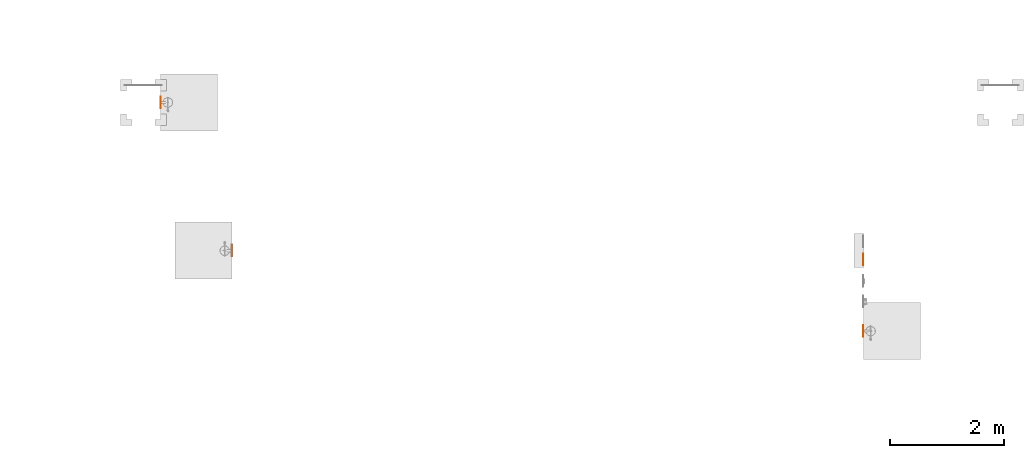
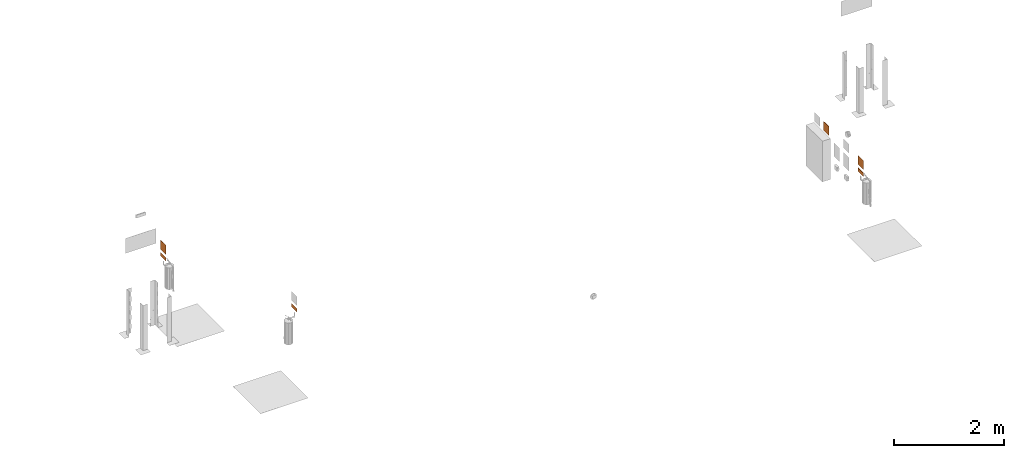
# One storey, part 70 of 119: 6 proxies.
"""IFC2X3 building model written with IfcOpenShell, lengths in metres."""

from ifc_helpers import new_model, entity, si_unit, converted_unit, derived_unit, direction, frame, frame_2d, origin, origin_2d_with_axis, place, context, subcontext, project, spatial, polyline, circle_curve, parameter, trimmed, segment, composite_curve, rectangle, outline, extrude, source, transform, mapped, material, material_list, type_object, type_shapes, element, save


model = new_model("IFC2X3")

# Units and contexts
model_context = context("Model", 3, precision=1e-05, world=origin(), true_north=direction((6.12303176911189e-17, 1.0)))
body_context = subcontext(model_context, "Body", "Model", "MODEL_VIEW")
ifc_project = project(units=[si_unit("LENGTHUNIT", "METRE"), si_unit("AREAUNIT", "SQUARE_METRE"), si_unit("VOLUMEUNIT", "CUBIC_METRE"), converted_unit("PLANEANGLEUNIT", "DEGREE", entity("IfcRatioMeasure", 0.0174532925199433), si_unit("PLANEANGLEUNIT", "RADIAN"), dimensions=[0, 0, 0, 0, 0, 0, 0]), si_unit("MASSUNIT", "GRAM", prefix="KILO"), derived_unit("MASSDENSITYUNIT", [(si_unit("MASSUNIT", "GRAM", prefix="KILO"), 1), (si_unit("LENGTHUNIT", "METRE"), -3)]), derived_unit("MOMENTOFINERTIAUNIT", [(si_unit("LENGTHUNIT", "METRE"), 4)]), si_unit("TIMEUNIT", "SECOND"), si_unit("FREQUENCYUNIT", "HERTZ"), si_unit("THERMODYNAMICTEMPERATUREUNIT", "DEGREE_CELSIUS"), derived_unit("THERMALTRANSMITTANCEUNIT", [(si_unit("MASSUNIT", "GRAM", prefix="KILO"), 1), (si_unit("THERMODYNAMICTEMPERATUREUNIT", "KELVIN"), -1), (si_unit("TIMEUNIT", "SECOND"), -3)]), derived_unit("VOLUMETRICFLOWRATEUNIT", [(si_unit("LENGTHUNIT", "METRE"), 3), (si_unit("TIMEUNIT", "SECOND"), -1)]), si_unit("ELECTRICCURRENTUNIT", "AMPERE"), si_unit("ELECTRICVOLTAGEUNIT", "VOLT"), si_unit("POWERUNIT", "WATT"), si_unit("FORCEUNIT", "NEWTON", prefix="KILO"), si_unit("ILLUMINANCEUNIT", "LUX"), si_unit("LUMINOUSFLUXUNIT", "LUMEN"), si_unit("LUMINOUSINTENSITYUNIT", "CANDELA"), derived_unit("USERDEFINED", [(si_unit("MASSUNIT", "GRAM", prefix="KILO"), -1), (si_unit("LENGTHUNIT", "METRE"), -2), (si_unit("TIMEUNIT", "SECOND"), 3), (si_unit("LUMINOUSFLUXUNIT", "LUMEN"), 1)]), derived_unit("LINEARVELOCITYUNIT", [(si_unit("LENGTHUNIT", "METRE"), 1), (si_unit("TIMEUNIT", "SECOND"), -1)]), si_unit("PRESSUREUNIT", "PASCAL"), derived_unit("USERDEFINED", [(si_unit("LENGTHUNIT", "METRE"), -2), (si_unit("MASSUNIT", "GRAM", prefix="KILO"), 1), (si_unit("TIMEUNIT", "SECOND"), -2)]), derived_unit("LINEARFORCEUNIT", [(si_unit("MASSUNIT", "GRAM", prefix="KILO"), 1), (si_unit("LENGTHUNIT", "METRE"), 1), (si_unit("TIMEUNIT", "SECOND"), -2), (si_unit("LENGTHUNIT", "METRE"), -1)]), derived_unit("PLANARFORCEUNIT", [(si_unit("MASSUNIT", "GRAM", prefix="KILO"), 1), (si_unit("LENGTHUNIT", "METRE"), 1), (si_unit("TIMEUNIT", "SECOND"), -2), (si_unit("LENGTHUNIT", "METRE"), -2)])], contexts=[model_context])

# Site, building, storey
site_placement = place(None, origin())
site = spatial("IfcSite", under=ifc_project, at=site_placement, Name="Default", CompositionType="ELEMENT")
building_placement = place(site_placement, origin())
building = spatial("IfcBuilding", under=site, at=building_placement, CompositionType="ELEMENT")
storey_placement = place(building_placement, origin())
storey = spatial("IfcBuildingStorey", under=building, at=storey_placement, Name="PAV. 01 - TÉRREO", CompositionType="ELEMENT", Elevation=0.0)

# Proxies
ifc_material_1 = material(Name="Plastico branco")
ifc_material_2 = material(Name="Plastico vermelho")
ifc_material_list_1 = material_list([ifc_material_1, ifc_material_2])
building_element_proxy_type_1 = type_object("IfcBuildingElementProxyType", Name="Sinalização de equipamentos - E05 - Extintor de incêndio:Distância 08m", PredefinedType="NOTDEFINED", material=ifc_material_1)
shared_shape_1 = source(origin(), body_context, "Body", "SweptSolid", [
    extrude(outline(composite_curve([segment(polyline([(-0.039533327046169, -0.0988107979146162), (0.0136590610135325, -0.0988107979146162)]), True, "CONTINUOUS"), segment(polyline([(0.0136590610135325, -0.0988107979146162), (0.0136590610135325, -0.0150548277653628)]), True, "CONTINUOUS"), segment(polyline([(0.0136590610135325, -0.0150548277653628), (0.0132403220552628, -0.0112272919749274)]), True, "CONTINUOUS"), segment(polyline([(0.0132403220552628, -0.0112272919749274), (0.0119841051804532, -0.00798860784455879)]), True, "CONTINUOUS"), segment(polyline([(0.0119841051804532, -0.00798860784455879), (0.00989041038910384, -0.00533877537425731)]), True, "CONTINUOUS"), segment(polyline([(0.00989041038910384, -0.00533877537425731), (0.00695923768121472, -0.00327779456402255)]), True, "CONTINUOUS"), segment(polyline([(0.00695923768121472, -0.00327779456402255), (0.00319058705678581, -0.00180566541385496)]), True, "CONTINUOUS"), segment(polyline([(0.00319058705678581, -0.00180566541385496), (-0.00141554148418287, -0.000922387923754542)]), True, "CONTINUOUS"), segment(polyline([(-0.00141554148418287, -0.000922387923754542), (-0.00685914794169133, -0.000627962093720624)]), True, "CONTINUOUS"), segment(polyline([(-0.00685914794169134, -0.000627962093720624), (-0.00685914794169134, 0.00837547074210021)]), True, "CONTINUOUS"), segment(polyline([(-0.00685914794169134, 0.00837547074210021), (0.000568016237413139, 0.00837547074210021)]), True, "CONTINUOUS"), segment(polyline([(0.000568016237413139, 0.00837547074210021), (0.021500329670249, -0.0075875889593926)]), True, "CONTINUOUS"), segment(polyline([(0.021500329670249, -0.0075875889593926), (0.021500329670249, -0.0104328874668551)]), True, "CONTINUOUS"), segment(polyline([(0.021500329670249, -0.0104328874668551), (0.0245059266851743, -0.0104328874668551)]), True, "CONTINUOUS"), segment(polyline([(0.0245059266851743, -0.0104328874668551), (0.0245059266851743, -0.00811335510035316)]), True, "CONTINUOUS"), segment(polyline([(0.0245059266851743, -0.00811335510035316), (0.0243642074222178, -0.00545038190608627)]), True, "CONTINUOUS"), segment(polyline([(0.0243642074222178, -0.00545038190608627), (0.0239570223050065, -0.0032112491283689)]), True, "CONTINUOUS"), segment(polyline([(0.0239570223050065, -0.0032112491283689), (0.0233113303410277, -0.00132119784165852)]), True, "CONTINUOUS"), segment(polyline([(0.0233113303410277, -0.00132119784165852), (0.0224540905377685, 0.00029453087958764)]), True, "CONTINUOUS"), segment(polyline([(0.0224540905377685, 0.00029453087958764), (0.0214122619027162, 0.00171069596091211)]), True, "CONTINUOUS"), segment(polyline([(0.0214122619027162, 0.00171069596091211), (0.0202128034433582, 0.00300205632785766)]), True, "CONTINUOUS"), segment(polyline([(0.0202128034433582, 0.00300205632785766), (0.0188826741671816, 0.00424337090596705)]), True, "CONTINUOUS"), segment(polyline([(0.0188826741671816, 0.00424337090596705), (0.0144021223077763, 0.00811180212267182)]), True, "CONTINUOUS"), segment(polyline([(0.0144021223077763, 0.00811180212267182), (0.0113518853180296, 0.0106145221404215)]), True, "CONTINUOUS"), segment(polyline([(0.0113518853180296, 0.0106145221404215), (0.0085825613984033, 0.0127576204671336)]), True, "CONTINUOUS"), segment(polyline([(0.0085825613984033, 0.0127576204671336), (0.00738733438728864, 0.0136170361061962)]), True, "CONTINUOUS"), segment(polyline([(0.00738733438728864, 0.0136170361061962), (0.00631521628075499, 0.0143235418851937)]), True, "CONTINUOUS"), segment(polyline([(0.00631521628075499, 0.0143235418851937), (0.00532850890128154, 0.0148903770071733)]), True, "CONTINUOUS"), segment(polyline([(0.00532850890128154, 0.0148903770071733), (0.00438926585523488, 0.0153309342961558)]), True, "CONTINUOUS"), segment(polyline([(0.00438926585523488, 0.0153309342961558), (0.00345954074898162, 0.0156586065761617)]), True, "CONTINUOUS"), segment(polyline([(0.00345954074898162, 0.0156586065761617), (0.00250138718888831, 0.0158867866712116)]), True, "CONTINUOUS"), segment(polyline([(0.00250138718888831, 0.0158867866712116), (0.00144087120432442, 0.0160289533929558)]), True, "CONTINUOUS"), segment(polyline([(0.00144087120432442, 0.0160289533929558), (-0.000108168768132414, 0.0160993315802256)]), True, "CONTINUOUS"), segment(polyline([(-0.000108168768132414, 0.0160993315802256), (-0.00685914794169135, 0.0160831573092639)]), True, "CONTINUOUS"), segment(polyline([(-0.00685914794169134, 0.0160831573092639), (-0.00685914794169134, 0.0213863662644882)]), True, "CONTINUOUS"), segment(polyline([(-0.00685914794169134, 0.0213863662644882), (-0.0177728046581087, 0.0213863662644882)]), True, "CONTINUOUS"), segment(polyline([(-0.0177728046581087, 0.0213863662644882), (-0.0177728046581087, 0.0160831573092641)]), True, "CONTINUOUS"), segment(polyline([(-0.0177728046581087, 0.0160831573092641), (-0.0288467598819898, 0.0160831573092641)]), True, "CONTINUOUS"), segment(trimmed(circle_curve(frame_2d((-0.0288467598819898, 0.0122293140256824), x_axis=(-1.0, 0.0)), 0.00385384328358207), [parameter(270.0)], [parameter(90.0000000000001)], True, "PARAMETER"), True, "CONTINUOUS"), segment(polyline([(-0.0288467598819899, 0.00837547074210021), (-0.0190151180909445, 0.00837547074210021)]), True, "CONTINUOUS"), segment(polyline([(-0.0190151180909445, 0.00837547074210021), (-0.0190151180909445, -0.000627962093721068)]), True, "CONTINUOUS"), segment(polyline([(-0.0190151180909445, -0.000627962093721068), (-0.024458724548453, -0.000922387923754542)]), True, "CONTINUOUS"), segment(polyline([(-0.024458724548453, -0.000922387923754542), (-0.0290648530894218, -0.00180566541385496)]), True, "CONTINUOUS"), segment(polyline([(-0.0290648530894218, -0.00180566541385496), (-0.0328335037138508, -0.00327779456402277)]), True, "CONTINUOUS"), segment(polyline([(-0.0328335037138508, -0.00327779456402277), (-0.03576467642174, -0.00533877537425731)]), True, "CONTINUOUS"), segment(polyline([(-0.03576467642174, -0.00533877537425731), (-0.0378583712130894, -0.00798860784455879)]), True, "CONTINUOUS"), segment(polyline([(-0.0378583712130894, -0.00798860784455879), (-0.0391145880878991, -0.0112272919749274)]), True, "CONTINUOUS"), segment(polyline([(-0.0391145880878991, -0.0112272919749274), (-0.039533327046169, -0.0150548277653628)]), True, "CONTINUOUS"), segment(polyline([(-0.039533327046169, -0.0150548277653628), (-0.039533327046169, -0.0988107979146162)]), True, "CONTINUOUS")], self_intersect=False)), frame((-0.0129371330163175, -0.0011, 1.94006139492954), z_axis=(0.0, 1.0, 0.0), x_axis=(-1.0, 0.0, 0.0)), (0.0, 0.0, 1.0), 0.0011),
    extrude(rectangle(XDim=0.001, YDim=0.179, at=origin_2d_with_axis()), frame((0.0, -0.0005, 1.8105), z_axis=(0.0, 0.0, 1.0), x_axis=(0.0, 1.0, 0.0)), (0.0, 0.0, 1.0), 0.179),
    extrude(outline(polyline([(-0.100000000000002, -0.1), (0.100000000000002, -0.1), (0.100000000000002, 0.1), (-0.100000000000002, 0.1), (-0.100000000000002, -0.1)]), holes=[polyline([(-0.0895000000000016, -0.0895000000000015), (-0.0895000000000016, 0.0894999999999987), (0.0894999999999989, 0.0894999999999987), (0.0894999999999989, -0.0895000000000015), (-0.0895000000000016, -0.0895000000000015)])]), frame((0.0, -0.001, 1.9), z_axis=(0.0, 1.0, 0.0), x_axis=(0.0, 0.0, -1.0)), (0.0, 0.0, 1.0), 0.001),
])
type_shapes(building_element_proxy_type_1, [shared_shape_1])
proxy_1_placement = place(storey_placement, frame((6.47387477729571, 31.9286447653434, 0.0), z_axis=(0.0, 0.0, 1.0), x_axis=(0.0, 1.0, 0.0)))
element("IfcBuildingElementProxy", 1, at=proxy_1_placement, inside=storey, type_object=building_element_proxy_type_1, material=ifc_material_list_1, Name="Sinalização de equipamentos - E05 - Extintor de incêndio:Distância 08m", ObjectType="Sinalização de equipamentos - E05 - Extintor de incêndio:Distância 08m", context=body_context, shape_type="MappedRepresentation", body=[
    mapped(shared_shape_1, transform((0.0, 0.0, 0.0), scale=1.0)),
])
ifc_material_list_2 = material_list([ifc_material_1, ifc_material_2])
proxy_2_placement = place(storey_placement, frame((18.7740605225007, 27.9275157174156, 0.0), z_axis=(0.0, 0.0, 1.0), x_axis=(0.0, 1.0, 0.0)))
element("IfcBuildingElementProxy", 2, at=proxy_2_placement, inside=storey, type_object=building_element_proxy_type_1, material=ifc_material_list_2, Name="Sinalização de equipamentos - E05 - Extintor de incêndio:Distância 08m", ObjectType="Sinalização de equipamentos - E05 - Extintor de incêndio:Distância 08m", context=body_context, shape_type="MappedRepresentation", body=[
    mapped(shared_shape_1, transform((0.0, 0.0, 0.0), scale=1.0)),
])
ifc_material_3 = material(Name="Plastico Preto")
ifc_material_4 = material(Name="Plastico azul claro")
ifc_material_5 = material(Name="Plastico Verde")
ifc_material_list_3 = material_list([ifc_material_3, ifc_material_4, ifc_material_2, ifc_material_1, ifc_material_5])
building_element_proxy_type_2 = type_object("IfcBuildingElementProxyType", Name="Sinalização de equipamentos - E05 - Extintor de incêndio - TIPO 2:Placa de extintor - E6-A", PredefinedType="NOTDEFINED", material=ifc_material_3)
shared_shape_2 = source(origin(), body_context, "Body", "SweptSolid", [
    extrude(rectangle(XDim=0.001, YDim=0.0243464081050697, at=origin_2d_with_axis()), frame((0.0791678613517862, -0.0005, 0.0143679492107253), z_axis=(0.0, 0.0, 1.0), x_axis=(0.0, 1.0, 0.0)), (0.0, 0.0, 1.0), 0.0243153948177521),
    extrude(rectangle(XDim=0.001, YDim=0.0243464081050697, at=origin_2d_with_axis()), frame((0.0514092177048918, -0.0005, 0.0143679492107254), z_axis=(0.0, 0.0, 1.0), x_axis=(0.0, 1.0, 0.0)), (0.0, 0.0, 1.0), 0.0243153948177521),
    extrude(rectangle(XDim=0.001, YDim=0.0243464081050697, at=origin_2d_with_axis()), frame((0.023605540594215, -0.0005, 0.0143679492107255), z_axis=(0.0, 0.0, 1.0), x_axis=(0.0, 1.0, 0.0)), (0.0, 0.0, 1.0), 0.0243153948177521),
    extrude(rectangle(XDim=0.001, YDim=0.0243464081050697, at=origin_2d_with_axis()), frame((-0.00415310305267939, -0.0005, 0.0143679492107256), z_axis=(0.0, 0.0, 1.0), x_axis=(0.0, 1.0, 0.0)), (0.0, 0.0, 1.0), 0.0243153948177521),
    extrude(outline(polyline([(-0.0399999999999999, -0.1), (0.0399999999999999, -0.1), (0.0399999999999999, 0.1), (-0.0399999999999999, 0.1), (-0.0399999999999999, -0.1)]), holes=[polyline([(-0.0319999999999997, 0.091), (-0.0150022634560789, 0.091), (-0.0150022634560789, -0.091), (-0.0319999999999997, -0.091), (-0.0319999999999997, 0.091)]), polyline([(-0.010791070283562, 0.091), (0.0319999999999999, 0.091), (0.0319999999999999, 0.0473282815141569), (-0.010791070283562, 0.0473282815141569), (-0.010791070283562, 0.091)]), polyline([(0.00131665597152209, 0.0441091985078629), (0.0256320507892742, 0.0441091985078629), (0.0256320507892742, 0.0197627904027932), (0.00131665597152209, 0.0197627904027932), (0.00131665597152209, 0.0441091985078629)]), polyline([(0.00131665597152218, 0.0163263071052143), (0.0256320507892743, 0.0163263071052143), (0.0256320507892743, -0.00802010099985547), (0.00131665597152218, -0.00802010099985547), (0.00131665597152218, 0.0163263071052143)]), polyline([(0.00131665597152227, -0.0114323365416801), (0.0256320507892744, -0.0114323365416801), (0.0256320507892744, -0.0357787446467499), (0.00131665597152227, -0.0357787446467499), (0.00131665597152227, -0.0114323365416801)]), polyline([(0.00131665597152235, -0.0635824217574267), (0.00131665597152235, -0.039236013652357), (0.0256320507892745, -0.039236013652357), (0.0256320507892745, -0.0635824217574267), (0.00131665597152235, -0.0635824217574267)]), polyline([(0.00131665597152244, -0.0669946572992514), (0.0256320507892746, -0.0669946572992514), (0.0256320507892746, -0.091), (0.00131665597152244, -0.091), (0.00131665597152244, -0.0669946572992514)])]), frame((0.0, -0.001, 0.0399999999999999), z_axis=(0.0, 1.0, 0.0), x_axis=(0.0, 0.0, -1.0)), (0.0, 0.0, 1.0), 0.001),
    extrude(outline(composite_curve([segment(trimmed(circle_curve(frame_2d((-0.00182713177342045, 0.0030692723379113), x_axis=(1.0, 0.0)), 0.00333179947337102), [parameter(180.0)], [parameter(270.0)], True, "PARAMETER"), True, "CONTINUOUS"), segment(polyline([(-0.00182713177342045, -0.000262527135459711), (-0.000430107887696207, -0.000262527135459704)]), True, "CONTINUOUS"), segment(polyline([(-0.000430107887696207, -0.000262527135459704), (-0.000430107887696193, -0.00350797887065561)]), True, "CONTINUOUS"), segment(polyline([(-0.000430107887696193, -0.00350797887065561), (-0.00249820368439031, -0.00350797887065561)]), True, "CONTINUOUS"), segment(polyline([(-0.00249820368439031, -0.00350797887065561), (-0.00742535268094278, 7.18044171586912e-05)]), True, "CONTINUOUS"), segment(polyline([(-0.00742535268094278, 7.18044171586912e-05), (-0.00742535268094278, 0.00166630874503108)]), True, "CONTINUOUS"), segment(polyline([(-0.00742535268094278, 0.00166630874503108), (-0.00871124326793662, 0.00166630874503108)]), True, "CONTINUOUS"), segment(polyline([(-0.00871124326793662, 0.00166630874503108), (-0.00846384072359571, -0.00134355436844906)]), True, "CONTINUOUS"), segment(trimmed(circle_curve(frame_2d((-0.00608099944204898, -0.00114769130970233), x_axis=(1.0, 0.0)), 0.00239087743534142), [parameter(184.698993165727)], [parameter(232.0)], True, "PARAMETER"), True, "CONTINUOUS"), segment(polyline([(-0.00755297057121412, -0.00303172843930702), (-0.0030496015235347, -0.00655014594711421)]), True, "CONTINUOUS"), segment(polyline([(-0.0030496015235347, -0.00655014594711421), (-0.000124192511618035, -0.00655014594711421)]), True, "CONTINUOUS"), segment(polyline([(-0.000124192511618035, -0.00655014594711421), (-0.000124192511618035, -0.00788602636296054)]), True, "CONTINUOUS"), segment(polyline([(-0.000124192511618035, -0.00788602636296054), (0.003207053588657, -0.00788602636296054)]), True, "CONTINUOUS"), segment(polyline([(0.003207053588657, -0.00788602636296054), (0.003207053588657, -0.00698801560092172)]), True, "CONTINUOUS"), segment(polyline([(0.003207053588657, -0.00698801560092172), (0.00540783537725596, -0.00698801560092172)]), True, "CONTINUOUS"), segment(polyline([(0.00540783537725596, -0.00698801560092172), (0.00665542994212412, -0.00574042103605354)]), True, "CONTINUOUS"), segment(polyline([(0.00665542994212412, -0.00574042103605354), (0.00665542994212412, -0.00450724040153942)]), True, "CONTINUOUS"), segment(polyline([(0.00665542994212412, -0.00450724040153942), (0.00491919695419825, -0.00324579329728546)]), True, "CONTINUOUS"), segment(polyline([(0.00491919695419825, -0.00324579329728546), (0.00355615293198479, -0.00324579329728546)]), True, "CONTINUOUS"), segment(polyline([(0.00355615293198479, -0.00324579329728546), (0.00355615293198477, -0.000262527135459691)]), True, "CONTINUOUS"), segment(polyline([(0.00355615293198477, -0.000262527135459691), (0.00500257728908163, -0.000262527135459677)]), True, "CONTINUOUS"), segment(trimmed(circle_curve(frame_2d((0.00500257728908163, 0.00284153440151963), x_axis=(1.0, 0.0)), 0.00310406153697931), [parameter(270.0)], [parameter(1.52666624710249e-13)], True, "PARAMETER"), True, "CONTINUOUS"), segment(polyline([(0.00810663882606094, 0.00284153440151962), (0.0081066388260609, 0.0313568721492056)]), True, "CONTINUOUS"), segment(polyline([(0.0081066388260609, 0.0313568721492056), (-0.00515893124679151, 0.0313568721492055)]), True, "CONTINUOUS"), segment(polyline([(-0.00515893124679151, 0.0313568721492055), (-0.00515893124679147, 0.00306927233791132)]), True, "CONTINUOUS")], self_intersect=False)), frame((-0.0705753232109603, -0.001, 0.0413479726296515), z_axis=(0.0, 1.0, 0.0), x_axis=(1.0, 0.0, 0.0)), (0.0, 0.0, 1.0), 0.001),
    extrude(rectangle(XDim=0.001, YDim=0.0243464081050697, at=origin_2d_with_axis()), frame((-0.0319359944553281, -0.0005, 0.0143679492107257), z_axis=(0.0, 0.0, 1.0), x_axis=(0.0, 1.0, 0.0)), (0.0, 0.0, 1.0), 0.0243153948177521),
    extrude(outline(polyline([(-0.0218358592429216, -0.021395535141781), (0.0218358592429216, -0.021395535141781), (0.0218358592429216, 0.021395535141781), (-0.0218358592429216, 0.021395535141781), (-0.0218358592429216, -0.021395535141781)]), holes=[composite_curve([segment(polyline([(-0.00669545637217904, -0.0194044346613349), (-0.00669545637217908, 0.00911090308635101)]), True, "CONTINUOUS"), segment(trimmed(circle_curve(frame_2d((-0.00359139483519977, 0.00911090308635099), x_axis=(-1.0, 0.0)), 0.00310406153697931), [parameter(270.0)], [parameter(360.0)], True, "PARAMETER"), False, "CONTINUOUS"), segment(polyline([(-0.0035913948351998, 0.0122149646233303), (-0.00214497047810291, 0.0122149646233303)]), True, "CONTINUOUS"), segment(polyline([(-0.00214497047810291, 0.0122149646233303), (-0.00214497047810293, 0.0151982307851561)]), True, "CONTINUOUS"), segment(polyline([(-0.00214497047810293, 0.0151982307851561), (-0.0035080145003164, 0.0151982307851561)]), True, "CONTINUOUS"), segment(polyline([(-0.0035080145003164, 0.0151982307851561), (-0.00524424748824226, 0.01645967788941)]), True, "CONTINUOUS"), segment(polyline([(-0.00524424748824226, 0.01645967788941), (-0.00524424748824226, 0.0176928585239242)]), True, "CONTINUOUS"), segment(polyline([(-0.00524424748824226, 0.0176928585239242), (-0.0039966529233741, 0.0189404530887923)]), True, "CONTINUOUS"), segment(polyline([(-0.0039966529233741, 0.0189404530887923), (-0.00179587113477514, 0.0189404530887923)]), True, "CONTINUOUS"), segment(polyline([(-0.00179587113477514, 0.0189404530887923), (-0.00179587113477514, 0.0198384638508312)]), True, "CONTINUOUS"), segment(polyline([(-0.00179587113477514, 0.0198384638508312), (0.00153537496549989, 0.0198384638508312)]), True, "CONTINUOUS"), segment(polyline([(0.00153537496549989, 0.0198384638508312), (0.00153537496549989, 0.0185025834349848)]), True, "CONTINUOUS"), segment(polyline([(0.00153537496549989, 0.0185025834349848), (0.00446078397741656, 0.0185025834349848)]), True, "CONTINUOUS"), segment(polyline([(0.00446078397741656, 0.0185025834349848), (0.00896415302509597, 0.0149841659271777)]), True, "CONTINUOUS"), segment(trimmed(circle_curve(frame_2d((0.00749218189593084, 0.0131001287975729), x_axis=(-1.0, 0.0)), 0.00239087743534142), [parameter(184.698993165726)], [parameter(231.999999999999)], True, "PARAMETER"), False, "CONTINUOUS"), segment(polyline([(0.00987502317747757, 0.0132959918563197), (0.0101224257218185, 0.0102861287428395)]), True, "CONTINUOUS"), segment(polyline([(0.0101224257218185, 0.0102861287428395), (0.00883653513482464, 0.0102861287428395)]), True, "CONTINUOUS"), segment(polyline([(0.00883653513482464, 0.0102861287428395), (0.00883653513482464, 0.0118806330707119)]), True, "CONTINUOUS"), segment(polyline([(0.00883653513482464, 0.0118806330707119), (0.00390938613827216, 0.0154604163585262)]), True, "CONTINUOUS"), segment(polyline([(0.00390938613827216, 0.0154604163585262), (0.00184129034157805, 0.0154604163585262)]), True, "CONTINUOUS"), segment(polyline([(0.00184129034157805, 0.0154604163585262), (0.00184129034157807, 0.0122149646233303)]), True, "CONTINUOUS"), segment(polyline([(0.00184129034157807, 0.0122149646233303), (0.00323831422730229, 0.0122149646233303)]), True, "CONTINUOUS"), segment(trimmed(circle_curve(frame_2d((0.00323831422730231, 0.00888316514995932), x_axis=(-1.0, 0.0)), 0.00333179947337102), [parameter(180.0)], [parameter(270.0)], True, "PARAMETER"), False, "CONTINUOUS"), segment(polyline([(0.00657011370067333, 0.00888316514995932), (0.00657011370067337, -0.0194044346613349)]), True, "CONTINUOUS"), segment(polyline([(0.00657011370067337, -0.0194044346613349), (-0.00669545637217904, -0.0194044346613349)]), True, "CONTINUOUS")], self_intersect=False)]), frame((-0.0691641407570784, -0.001, 0.0293955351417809), z_axis=(0.0, 1.0, 0.0), x_axis=(-1.0, 0.0, 0.0)), (0.0, 0.0, 1.0), 0.001),
    extrude(rectangle(XDim=0.001, YDim=0.182, at=origin_2d_with_axis()), frame((0.0, -0.0005, 0.0550022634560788), z_axis=(0.0, 0.0, 1.0), x_axis=(0.0, 1.0, 0.0)), (0.0, 0.0, 1.0), 0.0169977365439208),
])
type_shapes(building_element_proxy_type_2, [shared_shape_2])
proxy_3_placement = place(storey_placement, frame((6.47387477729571, 31.9286447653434, 1.65), z_axis=(0.0, 0.0, 1.0), x_axis=(0.0, 1.0, 0.0)))
element("IfcBuildingElementProxy", 3, at=proxy_3_placement, inside=storey, type_object=building_element_proxy_type_2, material=ifc_material_list_3, Name="Sinalização de equipamentos - E05 - Extintor de incêndio - TIPO 2:Placa de extintor - E6-A", ObjectType="Sinalização de equipamentos - E05 - Extintor de incêndio - TIPO 2:Placa de extintor - E6-A", context=body_context, shape_type="MappedRepresentation", body=[
    mapped(shared_shape_2, transform((0.0, 0.0, 0.0), scale=1.0)),
])
ifc_material_list_4 = material_list([ifc_material_3, ifc_material_4, ifc_material_2, ifc_material_1, ifc_material_5])
proxy_4_placement = place(storey_placement, frame((18.7740605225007, 27.9275157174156, 1.65), z_axis=(0.0, 0.0, 1.0), x_axis=(0.0, 1.0, 0.0)))
element("IfcBuildingElementProxy", 4, at=proxy_4_placement, inside=storey, type_object=building_element_proxy_type_2, material=ifc_material_list_4, Name="Sinalização de equipamentos - E05 - Extintor de incêndio - TIPO 2:Placa de extintor - E6-A", ObjectType="Sinalização de equipamentos - E05 - Extintor de incêndio - TIPO 2:Placa de extintor - E6-A", context=body_context, shape_type="MappedRepresentation", body=[
    mapped(shared_shape_2, transform((0.0, 0.0, 0.0), scale=1.0)),
])
ifc_material_list_5 = material_list([ifc_material_3, ifc_material_4, ifc_material_2, ifc_material_1, ifc_material_5])
proxy_5_placement = place(storey_placement, frame((7.72406052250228, 29.3352888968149, 1.65), z_axis=(0.0, 0.0, 1.0), x_axis=(0.0, -1.0, 0.0)))
element("IfcBuildingElementProxy", 5, at=proxy_5_placement, inside=storey, type_object=building_element_proxy_type_2, material=ifc_material_list_5, Name="Sinalização de equipamentos - E05 - Extintor de incêndio - TIPO 2:Placa de extintor - E6-A", ObjectType="Sinalização de equipamentos - E05 - Extintor de incêndio - TIPO 2:Placa de extintor - E6-A", context=body_context, shape_type="MappedRepresentation", body=[
    mapped(shared_shape_2, transform((0.0, 0.0, 0.0), scale=1.0)),
])
ifc_material_list_6 = material_list([ifc_material_1, ifc_material_2])
building_element_proxy_type_3 = type_object("IfcBuildingElementProxyType", Name="Sinalização de equipamentos - E08 - Hidrante de incêndio:Distância 08m", PredefinedType="NOTDEFINED", material=ifc_material_1)
shared_shape_3 = source(origin(), body_context, "Body", "SweptSolid", [
    extrude(outline(polyline([(-0.0621646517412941, -0.0264425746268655), (-0.0621646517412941, -0.0546283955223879), (0.0655131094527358, -0.0546283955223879), (0.0655131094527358, -0.0264425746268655), (0.00753848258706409, -0.0264425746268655), (0.00753848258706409, 0.0264425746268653), (0.0655131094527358, 0.0264425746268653), (0.0655131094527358, 0.0546283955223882), (-0.0621646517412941, 0.0546283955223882), (-0.0621646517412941, 0.0264425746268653), (-0.0142353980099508, 0.0264425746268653), (-0.0142353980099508, -0.0264425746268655), (-0.0621646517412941, -0.0264425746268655)])), frame((0.0, -0.0015, 1.90139370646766), z_axis=(0.0, -1.0, 0.0), x_axis=(0.0, 0.0, -1.0)), (0.0, 0.0, -1.0), 0.0015),
    extrude(rectangle(XDim=0.001, YDim=0.179, at=origin_2d_with_axis()), frame((0.0, -0.0005, 1.8105), z_axis=(0.0, 0.0, 1.0), x_axis=(0.0, 1.0, 0.0)), (0.0, 0.0, 1.0), 0.179),
    extrude(outline(polyline([(-0.100000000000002, -0.1), (0.100000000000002, -0.1), (0.100000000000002, 0.1), (-0.100000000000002, 0.1), (-0.100000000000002, -0.1)]), holes=[polyline([(-0.0895000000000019, -0.0895000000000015), (-0.0895000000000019, 0.0894999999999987), (0.0894999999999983, 0.0894999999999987), (0.0894999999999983, -0.0895000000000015), (-0.0895000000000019, -0.0895000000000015)])]), frame((0.0, -0.001, 1.9), z_axis=(0.0, 1.0, 0.0), x_axis=(0.0, 0.0, -1.0)), (0.0, 0.0, 1.0), 0.001),
])
type_shapes(building_element_proxy_type_3, [shared_shape_3])
proxy_6_placement = place(storey_placement, frame((18.7740605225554, 29.1771958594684, 0.0), z_axis=(0.0, 0.0, 1.0), x_axis=(0.0, 1.0, 0.0)))
element("IfcBuildingElementProxy", 6, at=proxy_6_placement, inside=storey, type_object=building_element_proxy_type_3, material=ifc_material_list_6, Name="Sinalização de equipamentos - E08 - Hidrante de incêndio:Distância 08m", ObjectType="Sinalização de equipamentos - E08 - Hidrante de incêndio:Distância 08m", context=body_context, shape_type="MappedRepresentation", body=[
    mapped(shared_shape_3, transform((0.0, 0.0, 0.0), scale=1.0)),
])

save(model, "model.ifc")
